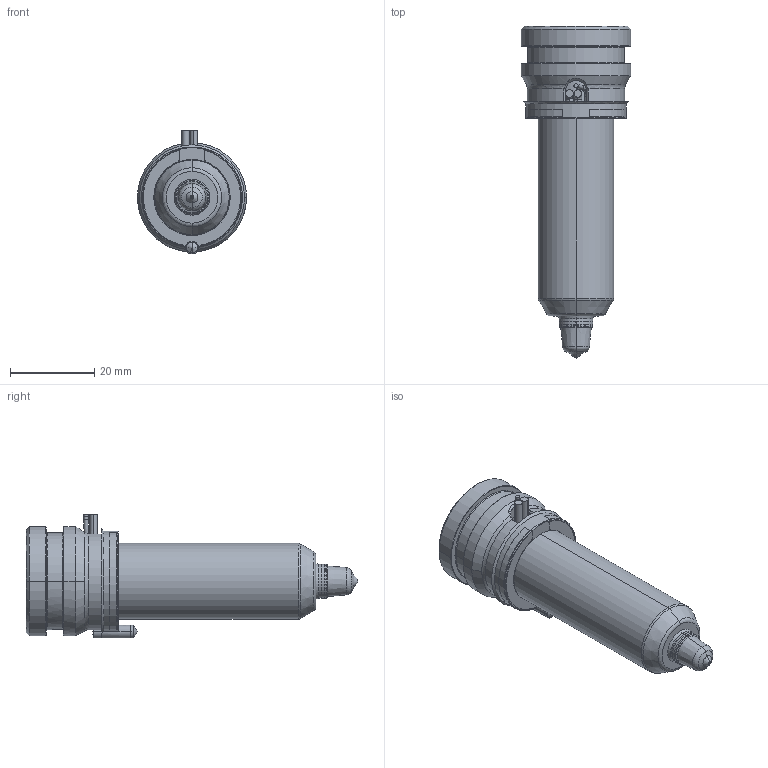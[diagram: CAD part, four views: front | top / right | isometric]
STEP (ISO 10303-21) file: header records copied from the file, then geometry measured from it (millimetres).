
FILE_DESCRIPTION((''),'2;1');
FILE_NAME('TH18061-A-1B50-PK-JG','2023-12-14T',('umhib'),('Thermoplay S.p.A.'),'PRO/ENGINEER BY PARAMETRIC TECHNOLOGY CORPORATION, 2017170','PRO/ENGINEER BY PARAMETRIC TECHNOLOGY CORPORATION, 2017170','');
FILE_SCHEMA(('CONFIG_CONTROL_DESIGN'));
Length unit declared in the file: millimetre
Products named in the file (1): TH18061-A-1B50-PK-JG
Bounding box: 26 x 79 x 29.5 mm (x, y, z)
Volume: 16942.5 mm3; surface area: 12455.3 mm2
Topology: 1 solids, 2 shells, 394 faces, 1026 edges, 637 vertices
Faces by surface type: cylinder 151, plane 85, cone 66, torus 54, bspline 24, sphere 12, extrusion 2
Entity records: 18002 total; most frequent: CARTESIAN_POINT 6179, ORIENTED_EDGE 2028, DIRECTION 2015, EDGE_CURVE 1016, AXIS2_PLACEMENT_3D 808, VERTEX_POINT 637, CIRCLE 439, EDGE_LOOP 414
